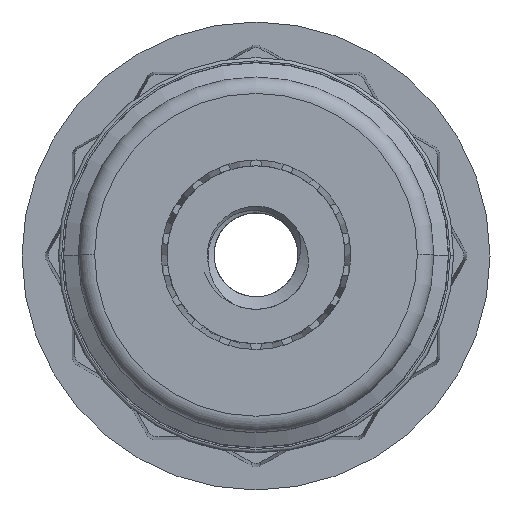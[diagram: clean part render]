
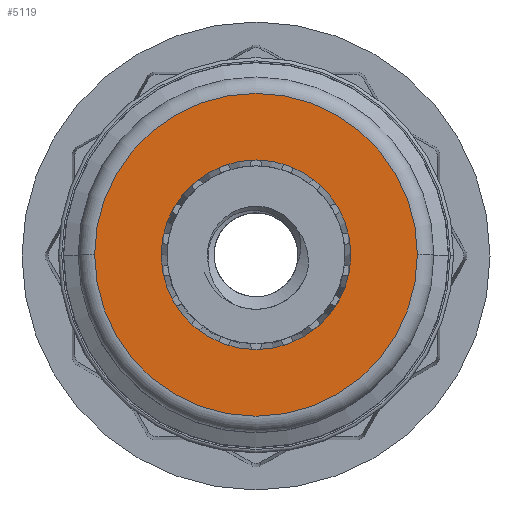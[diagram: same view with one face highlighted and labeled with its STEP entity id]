
A CAD part, top view. The second image highlights one B-rep face of the part: STEP entity #5119.
In plain terms, the highlighted planar face has unit normal (0, 0, 1).
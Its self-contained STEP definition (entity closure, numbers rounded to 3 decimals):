
#14 = DIRECTION ( 'NONE',  ( 1., 0., 0. ) ) ;
#49 = CARTESIAN_POINT ( 'NONE',  ( 0., 0., 24. ) ) ;
#286 = CARTESIAN_POINT ( 'NONE',  ( -2.879, 0., 24. ) ) ;
#378 = EDGE_LOOP ( 'NONE', ( #3181, #2133 ) ) ;
#454 = CIRCLE ( 'NONE', #1958, 4.9 ) ;
#459 = DIRECTION ( 'NONE',  ( 0., 0., 1. ) ) ;
#628 = DIRECTION ( 'NONE',  ( -1., 0., 0. ) ) ;
#979 = VERTEX_POINT ( 'NONE', #286 ) ;
#1544 = PLANE ( 'NONE',  #1719 ) ;
#1719 = AXIS2_PLACEMENT_3D ( 'NONE', #2376, #2543, #1806 ) ;
#1806 = DIRECTION ( 'NONE',  ( -1., 0., 0. ) ) ;
#1834 = EDGE_CURVE ( 'NONE', #7963, #7189, #6354, .T. ) ;
#1958 = AXIS2_PLACEMENT_3D ( 'NONE', #4319, #459, #7337 ) ;
#2120 = EDGE_LOOP ( 'NONE', ( #6135, #5663 ) ) ;
#2133 = ORIENTED_EDGE ( 'NONE', *, *, #2754, .T. ) ;
#2376 = CARTESIAN_POINT ( 'NONE',  ( 0., 5.4, 24. ) ) ;
#2538 = EDGE_CURVE ( 'NONE', #7228, #979, #3904, .T. ) ;
#2543 = DIRECTION ( 'NONE',  ( 0., 0., -1. ) ) ;
#2754 = EDGE_CURVE ( 'NONE', #7189, #7963, #454, .T. ) ;
#2907 = CARTESIAN_POINT ( 'NONE',  ( 0., 0., 24. ) ) ;
#2943 = DIRECTION ( 'NONE',  ( 0., 0., 1. ) ) ;
#3181 = ORIENTED_EDGE ( 'NONE', *, *, #1834, .T. ) ;
#3806 = DIRECTION ( 'NONE',  ( 1., 0., 0. ) ) ;
#3904 = CIRCLE ( 'NONE', #6503, 2.879 ) ;
#3945 = CIRCLE ( 'NONE', #6917, 2.879 ) ;
#4313 = AXIS2_PLACEMENT_3D ( 'NONE', #2907, #2943, #628 ) ;
#4319 = CARTESIAN_POINT ( 'NONE',  ( 0., 0., 24. ) ) ;
#4437 = FACE_OUTER_BOUND ( 'NONE', #378, .T. ) ;
#5119 = ADVANCED_FACE ( 'NONE', ( #4437, #8180 ), #1544, .F. ) ;
#5368 = CARTESIAN_POINT ( 'NONE',  ( -4.9, 0., 24. ) ) ;
#5411 = DIRECTION ( 'NONE',  ( 0., 0., 1. ) ) ;
#5663 = ORIENTED_EDGE ( 'NONE', *, *, #6855, .F. ) ;
#6135 = ORIENTED_EDGE ( 'NONE', *, *, #2538, .F. ) ;
#6354 = CIRCLE ( 'NONE', #4313, 4.9 ) ;
#6503 = AXIS2_PLACEMENT_3D ( 'NONE', #6797, #8273, #3806 ) ;
#6797 = CARTESIAN_POINT ( 'NONE',  ( 0., 0., 24. ) ) ;
#6855 = EDGE_CURVE ( 'NONE', #979, #7228, #3945, .T. ) ;
#6917 = AXIS2_PLACEMENT_3D ( 'NONE', #49, #5411, #14 ) ;
#7189 = VERTEX_POINT ( 'NONE', #7314 ) ;
#7228 = VERTEX_POINT ( 'NONE', #9593 ) ;
#7314 = CARTESIAN_POINT ( 'NONE',  ( 4.9, 0., 24. ) ) ;
#7337 = DIRECTION ( 'NONE',  ( -1., 0., 0. ) ) ;
#7963 = VERTEX_POINT ( 'NONE', #5368 ) ;
#8180 = FACE_BOUND ( 'NONE', #2120, .T. ) ;
#8273 = DIRECTION ( 'NONE',  ( 0., 0., 1. ) ) ;
#9593 = CARTESIAN_POINT ( 'NONE',  ( 2.879, 0., 24. ) ) ;
